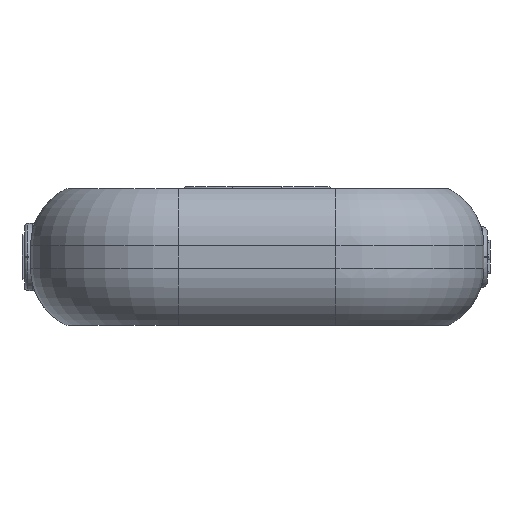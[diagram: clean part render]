
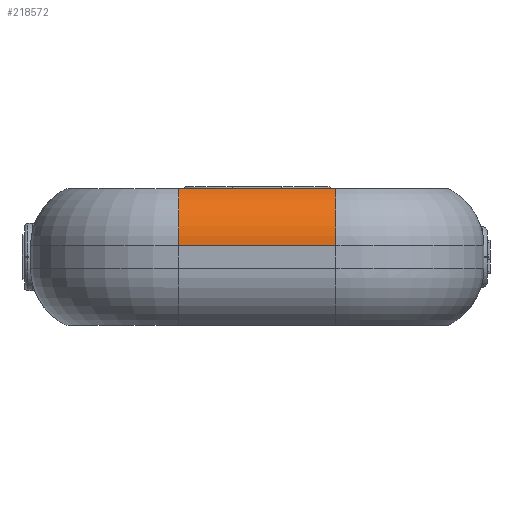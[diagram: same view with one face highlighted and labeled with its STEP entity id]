
A CAD part, front view. The second image highlights one B-rep face of the part: STEP entity #218572.
In plain terms, the highlighted cylindrical face has radius 11.35 mm (diameter 22.7 mm), a partial arc.
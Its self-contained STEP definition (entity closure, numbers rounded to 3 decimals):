
#215299 = TOROIDAL_SURFACE('',#215300,15.,11.35);
#215300 = AXIS2_PLACEMENT_3D('',#215301,#215302,#215303);
#215301 = CARTESIAN_POINT('',(-14.,-50.,-10.));
#215302 = DIRECTION('',(0.,0.,1.));
#215303 = DIRECTION('',(0.,-1.,0.));
#217572 = VERTEX_POINT('',#217573);
#217573 = CARTESIAN_POINT('',(-14.,-70.,0.189));
#217597 = VERTEX_POINT('',#217598);
#217598 = CARTESIAN_POINT('',(-14.,-76.35,-10.));
#217620 = EDGE_CURVE('',#217597,#217572,#217621,.T.);
#217621 = SURFACE_CURVE('',#217622,(#217627,#217633),.PCURVE_S1.);
#217622 = CIRCLE('',#217623,11.35);
#217623 = AXIS2_PLACEMENT_3D('',#217624,#217625,#217626);
#217624 = CARTESIAN_POINT('',(-14.,-65.,-10.));
#217625 = DIRECTION('',(-1.,0.,0.));
#217626 = DIRECTION('',(0.,-1.,0.));
#217627 = PCURVE('',#215299,#217628);
#217628 = DEFINITIONAL_REPRESENTATION('',(#217629),#217632);
#217629 = B_SPLINE_CURVE_WITH_KNOTS('',1,(#217630,#217631),
  .UNSPECIFIED.,.F.,.F.,(2,2),(0.,1.571),
  .PIECEWISE_BEZIER_KNOTS.);
#217630 = CARTESIAN_POINT('',(6.283,0.));
#217631 = CARTESIAN_POINT('',(6.283,1.571));
#217632 = ( GEOMETRIC_REPRESENTATION_CONTEXT(2) 
PARAMETRIC_REPRESENTATION_CONTEXT() REPRESENTATION_CONTEXT('2D SPACE',''
  ) );
#217633 = PCURVE('',#217634,#217639);
#217634 = CYLINDRICAL_SURFACE('',#217635,11.35);
#217635 = AXIS2_PLACEMENT_3D('',#217636,#217637,#217638);
#217636 = CARTESIAN_POINT('',(14.,-65.,-10.));
#217637 = DIRECTION('',(-1.,-0.,-0.));
#217638 = DIRECTION('',(0.,-1.,0.));
#217639 = DEFINITIONAL_REPRESENTATION('',(#217640),#217643);
#217640 = B_SPLINE_CURVE_WITH_KNOTS('',1,(#217641,#217642),
  .UNSPECIFIED.,.F.,.F.,(2,2),(0.,1.571),
  .PIECEWISE_BEZIER_KNOTS.);
#217641 = CARTESIAN_POINT('',(0.,28.));
#217642 = CARTESIAN_POINT('',(1.571,28.));
#217643 = ( GEOMETRIC_REPRESENTATION_CONTEXT(2) 
PARAMETRIC_REPRESENTATION_CONTEXT() REPRESENTATION_CONTEXT('2D SPACE',''
  ) );
#217989 = PLANE('',#217990);
#217990 = AXIS2_PLACEMENT_3D('',#217991,#217992,#217993);
#217991 = CARTESIAN_POINT('',(-14.,-76.35,-25.35));
#217992 = DIRECTION('',(0.,1.,0.));
#217993 = DIRECTION('',(1.,0.,0.));
#218558 = PLANE('',#218559);
#218559 = AXIS2_PLACEMENT_3D('',#218560,#218561,#218562);
#218560 = CARTESIAN_POINT('',(-14.,-70.,-40.));
#218561 = DIRECTION('',(0.,1.,0.));
#218562 = DIRECTION('',(1.,0.,0.));
#218572 = ADVANCED_FACE('',(#218573),#217634,.T.);
#218573 = FACE_BOUND('',#218574,.T.);
#218574 = EDGE_LOOP('',(#218575,#218598,#218625,#218645));
#218575 = ORIENTED_EDGE('',*,*,#218576,.F.);
#218576 = EDGE_CURVE('',#218577,#217597,#218579,.T.);
#218577 = VERTEX_POINT('',#218578);
#218578 = CARTESIAN_POINT('',(14.,-76.35,-10.));
#218579 = SURFACE_CURVE('',#218580,(#218584,#218591),.PCURVE_S1.);
#218580 = LINE('',#218581,#218582);
#218581 = CARTESIAN_POINT('',(14.,-76.35,-10.));
#218582 = VECTOR('',#218583,1.);
#218583 = DIRECTION('',(-1.,-0.,-0.));
#218584 = PCURVE('',#217634,#218585);
#218585 = DEFINITIONAL_REPRESENTATION('',(#218586),#218590);
#218586 = LINE('',#218587,#218588);
#218587 = CARTESIAN_POINT('',(0.,0.));
#218588 = VECTOR('',#218589,1.);
#218589 = DIRECTION('',(0.,1.));
#218590 = ( GEOMETRIC_REPRESENTATION_CONTEXT(2) 
PARAMETRIC_REPRESENTATION_CONTEXT() REPRESENTATION_CONTEXT('2D SPACE',''
  ) );
#218591 = PCURVE('',#217989,#218592);
#218592 = DEFINITIONAL_REPRESENTATION('',(#218593),#218597);
#218593 = LINE('',#218594,#218595);
#218594 = CARTESIAN_POINT('',(28.,-15.35));
#218595 = VECTOR('',#218596,1.);
#218596 = DIRECTION('',(-1.,0.));
#218597 = ( GEOMETRIC_REPRESENTATION_CONTEXT(2) 
PARAMETRIC_REPRESENTATION_CONTEXT() REPRESENTATION_CONTEXT('2D SPACE',''
  ) );
#218598 = ORIENTED_EDGE('',*,*,#218599,.T.);
#218599 = EDGE_CURVE('',#218577,#218600,#218602,.T.);
#218600 = VERTEX_POINT('',#218601);
#218601 = CARTESIAN_POINT('',(14.,-70.,0.189));
#218602 = SURFACE_CURVE('',#218603,(#218608,#218614),.PCURVE_S1.);
#218603 = CIRCLE('',#218604,11.35);
#218604 = AXIS2_PLACEMENT_3D('',#218605,#218606,#218607);
#218605 = CARTESIAN_POINT('',(14.,-65.,-10.));
#218606 = DIRECTION('',(-1.,0.,0.));
#218607 = DIRECTION('',(0.,-1.,-0.));
#218608 = PCURVE('',#217634,#218609);
#218609 = DEFINITIONAL_REPRESENTATION('',(#218610),#218613);
#218610 = B_SPLINE_CURVE_WITH_KNOTS('',1,(#218611,#218612),
  .UNSPECIFIED.,.F.,.F.,(2,2),(0.,1.571),
  .PIECEWISE_BEZIER_KNOTS.);
#218611 = CARTESIAN_POINT('',(0.,0.));
#218612 = CARTESIAN_POINT('',(1.571,0.));
#218613 = ( GEOMETRIC_REPRESENTATION_CONTEXT(2) 
PARAMETRIC_REPRESENTATION_CONTEXT() REPRESENTATION_CONTEXT('2D SPACE',''
  ) );
#218614 = PCURVE('',#218615,#218620);
#218615 = TOROIDAL_SURFACE('',#218616,15.,11.35);
#218616 = AXIS2_PLACEMENT_3D('',#218617,#218618,#218619);
#218617 = CARTESIAN_POINT('',(14.,-50.,-10.));
#218618 = DIRECTION('',(0.,0.,1.));
#218619 = DIRECTION('',(1.,0.,-0.));
#218620 = DEFINITIONAL_REPRESENTATION('',(#218621),#218624);
#218621 = B_SPLINE_CURVE_WITH_KNOTS('',1,(#218622,#218623),
  .UNSPECIFIED.,.F.,.F.,(2,2),(0.,1.571),
  .PIECEWISE_BEZIER_KNOTS.);
#218622 = CARTESIAN_POINT('',(4.712,0.));
#218623 = CARTESIAN_POINT('',(4.712,1.571));
#218624 = ( GEOMETRIC_REPRESENTATION_CONTEXT(2) 
PARAMETRIC_REPRESENTATION_CONTEXT() REPRESENTATION_CONTEXT('2D SPACE',''
  ) );
#218625 = ORIENTED_EDGE('',*,*,#218626,.T.);
#218626 = EDGE_CURVE('',#218600,#217572,#218627,.T.);
#218627 = SURFACE_CURVE('',#218628,(#218632,#218638),.PCURVE_S1.);
#218628 = LINE('',#218629,#218630);
#218629 = CARTESIAN_POINT('',(14.,-70.,0.189));
#218630 = VECTOR('',#218631,1.);
#218631 = DIRECTION('',(-1.,-0.,-0.));
#218632 = PCURVE('',#217634,#218633);
#218633 = DEFINITIONAL_REPRESENTATION('',(#218634),#218637);
#218634 = B_SPLINE_CURVE_WITH_KNOTS('',1,(#218635,#218636),
  .UNSPECIFIED.,.F.,.F.,(2,2),(0.,28.),
  .PIECEWISE_BEZIER_KNOTS.);
#218635 = CARTESIAN_POINT('',(1.115,0.));
#218636 = CARTESIAN_POINT('',(1.115,28.));
#218637 = ( GEOMETRIC_REPRESENTATION_CONTEXT(2) 
PARAMETRIC_REPRESENTATION_CONTEXT() REPRESENTATION_CONTEXT('2D SPACE',''
  ) );
#218638 = PCURVE('',#218558,#218639);
#218639 = DEFINITIONAL_REPRESENTATION('',(#218640),#218644);
#218640 = LINE('',#218641,#218642);
#218641 = CARTESIAN_POINT('',(28.,-40.189));
#218642 = VECTOR('',#218643,1.);
#218643 = DIRECTION('',(-1.,0.));
#218644 = ( GEOMETRIC_REPRESENTATION_CONTEXT(2) 
PARAMETRIC_REPRESENTATION_CONTEXT() REPRESENTATION_CONTEXT('2D SPACE',''
  ) );
#218645 = ORIENTED_EDGE('',*,*,#217620,.F.);
